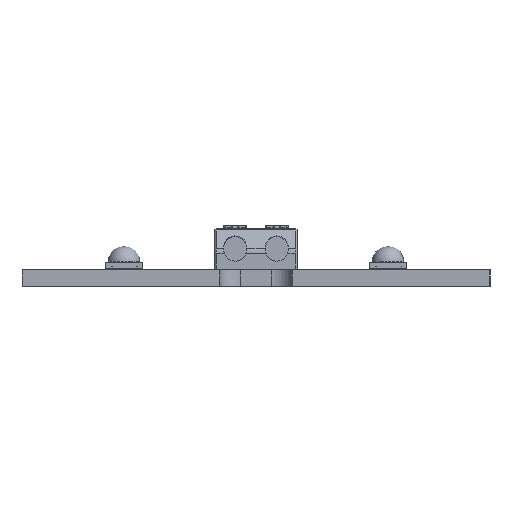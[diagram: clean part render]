
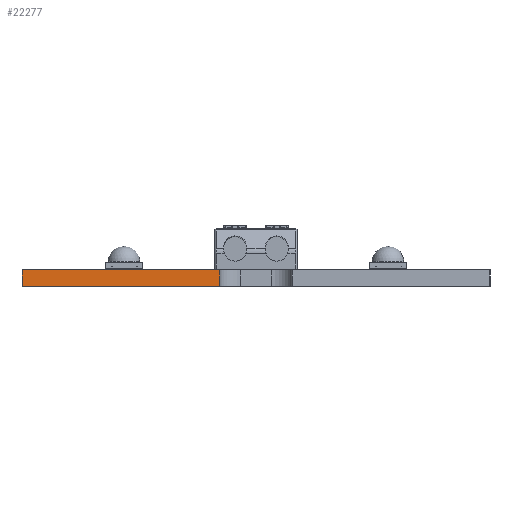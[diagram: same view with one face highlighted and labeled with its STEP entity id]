
A CAD part, left-side view. The second image highlights one B-rep face of the part: STEP entity #22277.
In plain terms, the highlighted planar face has unit normal (-1, 0, 0).
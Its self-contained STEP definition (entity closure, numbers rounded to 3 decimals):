
#1415=LINE('',#36724,#3652);
#2323=LINE('',#38733,#4560);
#2329=LINE('',#38748,#4566);
#2330=LINE('',#38749,#4567);
#3652=VECTOR('',#26956,10.);
#4560=VECTOR('',#28720,10.);
#4566=VECTOR('',#28736,10.);
#4567=VECTOR('',#28737,10.);
#6748=FACE_OUTER_BOUND('',#8130,.T.);
#8130=EDGE_LOOP('',(#19653,#19654,#19655,#19656));
#9941=VERTEX_POINT('',#36721);
#9942=VERTEX_POINT('',#36723);
#10615=VERTEX_POINT('',#38731);
#10619=VERTEX_POINT('',#38747);
#12662=EDGE_CURVE('',#9941,#9942,#1415,.T.);
#13646=EDGE_CURVE('',#10615,#9942,#2323,.T.);
#13653=EDGE_CURVE('',#9941,#10619,#2329,.T.);
#13654=EDGE_CURVE('',#10615,#10619,#2330,.T.);
#19653=ORIENTED_EDGE('',*,*,#13646,.T.);
#19654=ORIENTED_EDGE('',*,*,#12662,.F.);
#19655=ORIENTED_EDGE('',*,*,#13653,.T.);
#19656=ORIENTED_EDGE('',*,*,#13654,.F.);
#20519=PLANE('',#23734);
#22277=ADVANCED_FACE('',(#6748),#20519,.T.);
#23734=AXIS2_PLACEMENT_3D('',#38746,#28734,#28735);
#26956=DIRECTION('',(0.,-1.,0.));
#28720=DIRECTION('',(0.,0.,1.));
#28734=DIRECTION('center_axis',(-1.,0.,0.));
#28735=DIRECTION('ref_axis',(0.,1.,0.));
#28736=DIRECTION('',(0.,0.,-1.));
#28737=DIRECTION('',(0.,1.,0.));
#36721=CARTESIAN_POINT('',(0.,45.,0.));
#36723=CARTESIAN_POINT('',(0.,26.,0.));
#36724=CARTESIAN_POINT('',(0.,45.,0.));
#38731=CARTESIAN_POINT('',(0.,26.,-1.6));
#38733=CARTESIAN_POINT('',(0.,26.,0.));
#38746=CARTESIAN_POINT('Origin',(0.,0.,0.));
#38747=CARTESIAN_POINT('',(0.,45.,-1.6));
#38748=CARTESIAN_POINT('',(0.,45.,0.));
#38749=CARTESIAN_POINT('',(0.,45.,-1.6));
